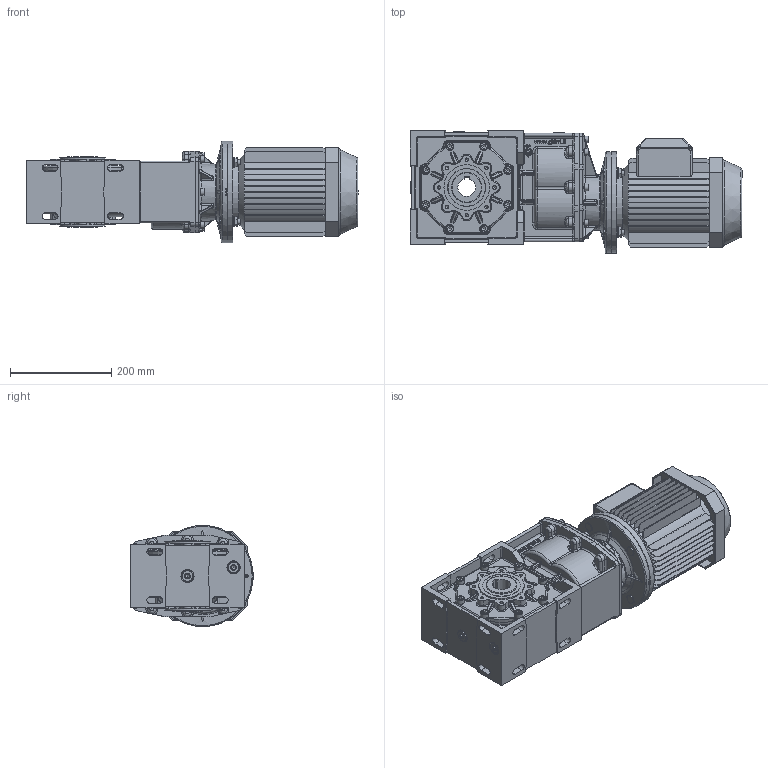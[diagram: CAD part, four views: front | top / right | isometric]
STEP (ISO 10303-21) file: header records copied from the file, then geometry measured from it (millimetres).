
FILE_DESCRIPTION((''),'2;1');
FILE_NAME('S:\Ghirri\3D\MO_RO30\Assiemi\MO30_3s-B5_90L.stp','2006-02-01T17:11:52',('Stefano'),(''),'Autodesk Inventor 10','Autodesk Inventor 10','');
FILE_SCHEMA(('AUTOMOTIVE_DESIGN { 1 0 10303 214 1 1 1 1 }'));
Length unit declared in the file: millimetre
Products named in the file (18): MO30_3s-B5_90L; Primario_MO30_3S; 3903001-A0; 3903002-A0; 3903003-A0; 3903009-A0; DIN 3760 AS AS - 60 x 75 x 8 - NBR; Guarnizione 3_8 GAS; Tappo 3_8 GAS_esagn_incsst; UNI 5931  M 10 x  25; UNI 5931  M 8 x  25; UNI 8839 A 8; motori B5 90L; 4011006-D0A; 4011006-D0; UNI 5738  M10 x 1.25 x 35; UNI 5589  M10; UNI 6593 11 x 21
Assembly tree (56 placements, depth 3):
  MO30_3s-B5_90L
    Primario_MO30_3S
      3903001-A0
      3903002-A0
      3903003-A0
      3903009-A0
      DIN 3760 AS AS - 60 x 75 x 8 - NBR  x2
      Guarnizione 3_8 GAS  x5
      Tappo 3_8 GAS_esagn_incsst  x5
      UNI 5931  M 10 x  25  x8
      UNI 5931  M 8 x  25  x8
      UNI 8839 A 8  x8
    motori B5 90L
    4011006-D0A
      4011006-D0
      UNI 5738  M10 x 1.25 x 35  x4
      UNI 5589  M10  x4
      UNI 6593 11 x 21  x4
Bounding box: 656 x 241.8 x 200 mm (x, y, z)
Volume: 13426993.7 mm3; surface area: 1251988.2 mm2
Topology: 54 solids, 58 shells, 3824 faces, 9668 edges, 5971 vertices
Faces by surface type: plane 1419, cylinder 1074, bspline 1017, cone 200, torus 110, sphere 4
Full cylindrical faces by diameter (mm): 8 x10, 8.5 x8, 10 x12, 10.5 x8, 11 x4, 12 x4, 13 x8, 14.95 x1, 16 x8, 16.2 x4, 16.3 x5, 16.5 x5, 21 x4, 22 x10, 24 x1, 25 x1, 60 x2, 64.8 x2, 70 x1, 71 x2, 75 x4, 80 x2, 90 x2, 110 x2, 114.4 x1, 127 x1, 130 x3, 154.4 x1, 160 x3, 200 x2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
Entity records: 171815 total; most frequent: CARTESIAN_POINT 94706, ORIENTED_EDGE 16388, DIRECTION 15350, EDGE_CURVE 8194, AXIS2_PLACEMENT_3D 5763, VERTEX_POINT 5206, VECTOR 3824, LINE 3824
